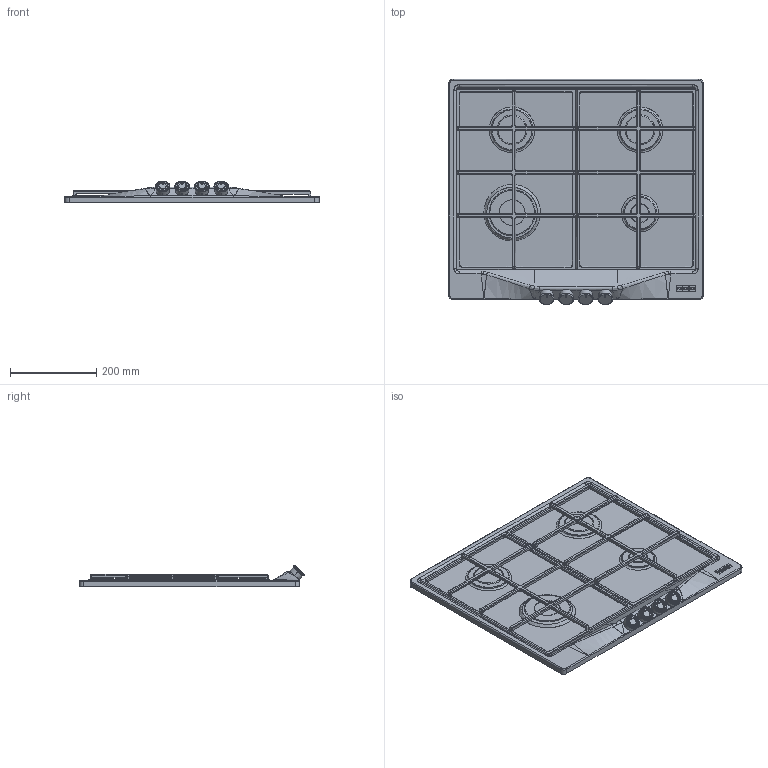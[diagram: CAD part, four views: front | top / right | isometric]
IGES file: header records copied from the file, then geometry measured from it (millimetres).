
Global section: file name: F:\_CONVERSIONE_CAD_2024_2025\03_3D kits new\01_Gas Hobs\106.0691.511_3D001_Hobs-Gas_Country_FCH-604-3G-TC-C\3D001_Hobs-Gas_Country_FCH-604-3G-TC-C.igs; native system: Rhinoceros ( Jan  9 2024 ); preprocessor: Trout Lake IGES 012 Jan  9 2024; date: 240205.155257; units: millimetre
Bounding box: 590 x 521.83 x 49.75 mm (x, y, z)
Surface area: 855060 mm2 (no closed solid volume)
Topology: 0 solids, 0 shells, 942 faces, 5691 edges, 5650 vertices
Faces by surface type: bspline 942
